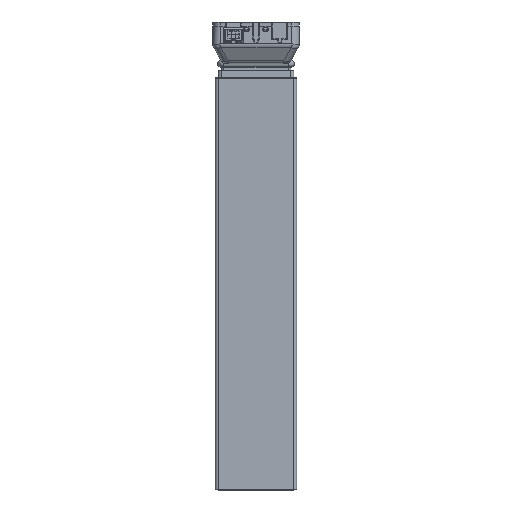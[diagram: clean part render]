
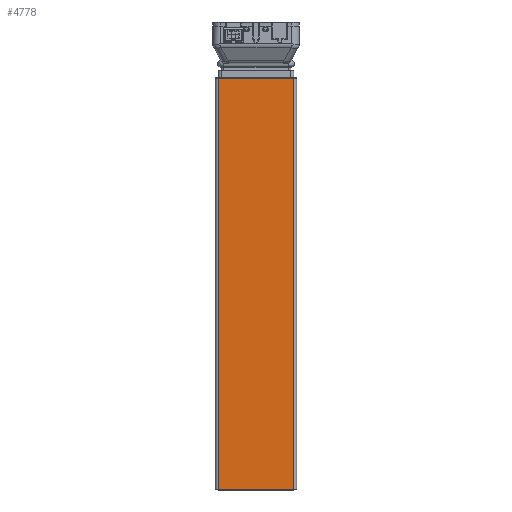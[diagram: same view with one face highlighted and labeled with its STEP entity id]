
A CAD part, top view. The second image highlights one B-rep face of the part: STEP entity #4778.
In plain terms, the highlighted planar face has unit normal (0, 0, 1).
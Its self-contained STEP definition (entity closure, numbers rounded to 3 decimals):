
#854=DIRECTION('',(1.,0.,0.));
#855=VECTOR('',#854,84.);
#856=CARTESIAN_POINT('',(-42.,0.,30.));
#857=LINE('',#856,#855);
#902=DIRECTION('',(1.,0.,0.));
#903=VECTOR('',#902,84.);
#904=CARTESIAN_POINT('',(-42.,456.,30.));
#905=LINE('',#904,#903);
#974=DIRECTION('',(0.,1.,0.));
#975=VECTOR('',#974,456.);
#976=CARTESIAN_POINT('',(42.,0.,30.));
#977=LINE('',#976,#975);
#1010=DIRECTION('',(0.,-1.,0.));
#1011=VECTOR('',#1010,456.);
#1012=CARTESIAN_POINT('',(-42.,456.,30.));
#1013=LINE('',#1012,#1011);
#3752=CARTESIAN_POINT('',(-42.,0.,30.));
#3753=CARTESIAN_POINT('',(42.,0.,30.));
#3754=VERTEX_POINT('',#3752);
#3755=VERTEX_POINT('',#3753);
#3768=CARTESIAN_POINT('',(-42.,456.,30.));
#3769=CARTESIAN_POINT('',(42.,456.,30.));
#3770=VERTEX_POINT('',#3768);
#3771=VERTEX_POINT('',#3769);
#4764=CARTESIAN_POINT('',(42.,0.,30.));
#4765=DIRECTION('',(0.,0.,1.));
#4766=DIRECTION('',(-1.,0.,0.));
#4767=AXIS2_PLACEMENT_3D('',#4764,#4765,#4766);
#4768=PLANE('',#4767);
#4770=ORIENTED_EDGE('',*,*,#4769,.T.);
#4772=ORIENTED_EDGE('',*,*,#4771,.F.);
#4773=ORIENTED_EDGE('',*,*,#4735,.F.);
#4775=ORIENTED_EDGE('',*,*,#4774,.F.);
#4776=EDGE_LOOP('',(#4770,#4772,#4773,#4775));
#4777=FACE_OUTER_BOUND('',#4776,.F.);
#4735=EDGE_CURVE('',#3754,#3755,#857,.T.);
#4769=EDGE_CURVE('',#3770,#3771,#905,.T.);
#4771=EDGE_CURVE('',#3755,#3771,#977,.T.);
#4774=EDGE_CURVE('',#3770,#3754,#1013,.T.);
#4778=ADVANCED_FACE('',(#4777),#4768,.T.);
